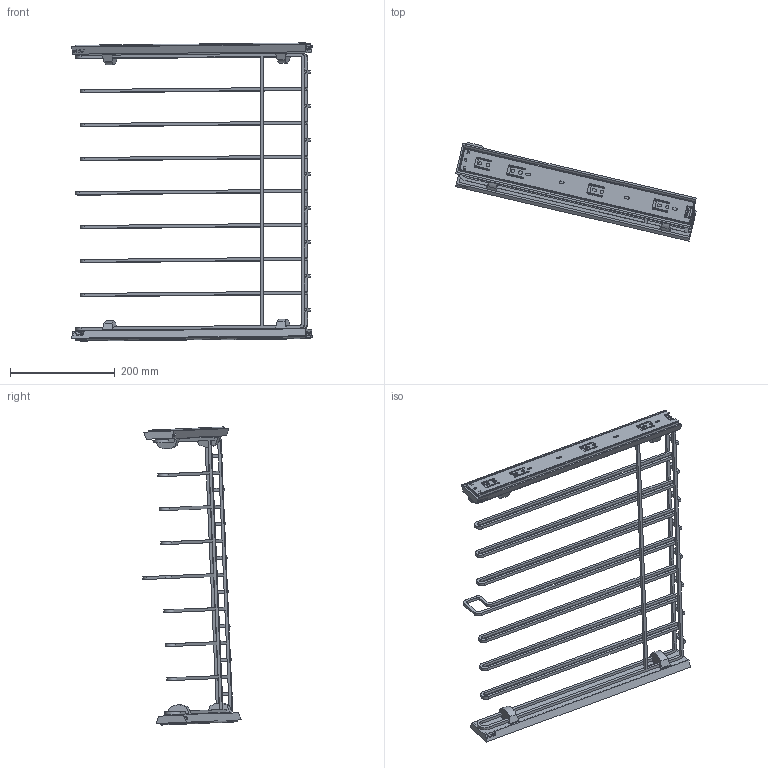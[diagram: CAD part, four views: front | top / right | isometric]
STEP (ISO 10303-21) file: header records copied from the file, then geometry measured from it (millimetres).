
FILE_DESCRIPTION(/* description */ (''),/* implementation_level */ '2;1');
FILE_NAME(/* name */ 'D:\$Workingspace\Designs\Meblowka\uproszczenia\garderoba smart\W-WSPD…-GX.stp',/* time_stamp */ '2019-01-02T09:11:30+01:00',/* author */ ('tomaszw'),/* organization */ (''),/* preprocessor_version */ 'ST-DEVELOPER v17',/* originating_system */ 'Autodesk Inventor 2019',/* authorisation */ '');
FILE_SCHEMA (('AUTOMOTIVE_DESIGN { 1 0 10303 214 3 1 1 }'));
Length unit declared in the file: millimetre
Products named in the file (11): złożenie z koszem 11_2017; GTV_D_03_02; PPD_2; SM 4x16; MD_1_02; DD_3_01; PK-0H45-450-GX; Blokada_5; PK-0H45_1-450-GX; PK-0H45_2-450-GX; PK-0H45_3-450-GX
Assembly tree (24 placements, depth 3):
  złożenie z koszem 11_2017
    PPD_2  x2
    GTV_D_03_02
    SM 4x16  x4
    MD_1_02  x4
    DD_3_01  x4
    PK-0H45-450-GX
      Blokada_5  x2
      PK-0H45_1-450-GX  x2
      PK-0H45_2-450-GX  x2
      PK-0H45_3-450-GX  x2
Bounding box: 459.49 x 187.85 x 569.59 mm (x, y, z)
Volume: 649377.4 mm3; surface area: 695150.3 mm2
Topology: 23 solids, 23 shells, 1697 faces, 4838 edges, 3212 vertices
Faces by surface type: plane 1165, cylinder 316, bspline 172, cone 44
Full cylindrical faces by diameter (mm): 4 x4, 4.3 x6, 4.5 x4, 5 x2, 5.1 x2, 6 x8, 7 x4, 8 x4, 8.3 x2
Entity records: 25901 total; most frequent: CARTESIAN_POINT 5309, ORIENTED_EDGE 4406, DIRECTION 3886, EDGE_CURVE 2203, LINE 1720, VECTOR 1720, VERTEX_POINT 1450, AXIS2_PLACEMENT_3D 1083
